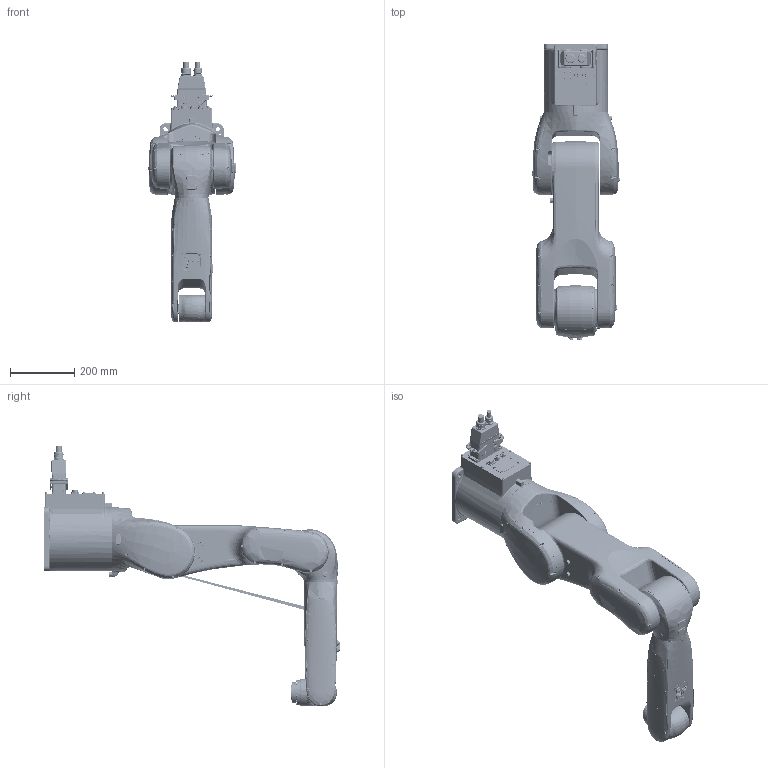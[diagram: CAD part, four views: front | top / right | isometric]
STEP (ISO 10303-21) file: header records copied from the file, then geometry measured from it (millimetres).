
FILE_DESCRIPTION (( 'STEP AP214' ), '1' );
FILE_NAME ('RA09A-07 小型六轴机器人_简化模型.STEP', '2022-12-08T11:21:38', ( 'User' ), ( 'China' ), 'SwSTEP 2.0', 'SolidWorks 2021', '' );
FILE_SCHEMA (( 'AUTOMOTIVE_DESIGN' ));
Length unit declared in the file: millimetre
Products named in the file (8): RA07A-08_01; RA07A-08_04; RA07A-08_06_1; RA07A-08_02; RA09A-07 小型六轴机器人_简化模型; RA09A-07_03; RA09A-07_05; RA07A-08_06_2
Assembly tree (7 placements, depth 2):
  RA09A-07 小型六轴机器人_简化模型
    RA07A-08_01
    RA07A-08_02
    RA09A-07_03
    RA07A-08_04
    RA09A-07_05
    RA07A-08_06_1
    RA07A-08_06_2
Bounding box: 271.57 x 925.6 x 813.33 mm (x, y, z)
Volume: 32024462.5 mm3; surface area: 1333044.9 mm2
Topology: 7 solids, 7 shells, 5367 faces, 13351 edges, 7994 vertices
Faces by surface type: bspline 1831, cylinder 1797, plane 1113, torus 384, cone 220, sphere 22
Entity records: 425709 total; most frequent: CARTESIAN_POINT 289365, ORIENTED_EDGE 26408, DIRECTION 20920, EDGE_CURVE 13204, AXIS2_PLACEMENT_3D 8505, VERTEX_POINT 7992, EDGE_LOOP 5630, FACE_OUTER_BOUND 5367
